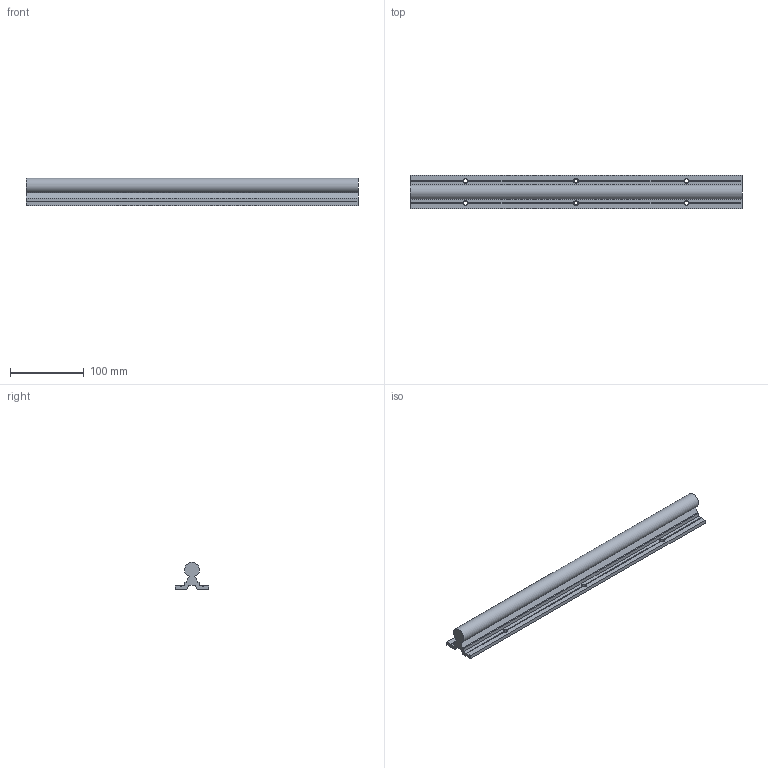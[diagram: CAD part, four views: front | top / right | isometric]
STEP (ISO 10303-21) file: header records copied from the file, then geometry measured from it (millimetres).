
FILE_DESCRIPTION(/* description */ (''),/* implementation_level */ '2;1');
FILE_NAME(/* name */ 'C:\Users\David\Desktop\stepFiles\Profilfuehrung\LFS20x450.stp',/* time_stamp */ '2018-06-24T15:21:52+02:00',/* author */ ('Buskamp'),/* organization */ (''),/* preprocessor_version */ 'ST-DEVELOPER v17',/* originating_system */ 'Autodesk Inventor 2019',/* authorisation */ '');
FILE_SCHEMA (('AUTOMOTIVE_DESIGN { 1 0 10303 214 3 1 1 }'));
Length unit declared in the file: millimetre
Products named in the file (1): Linearführung D20xvariabel
Bounding box: 450 x 45 x 37 mm (x, y, z)
Volume: 290742.6 mm3; surface area: 80733.3 mm2
Topology: 1 solids, 1 shells, 62 faces, 180 edges, 114 vertices
Faces by surface type: plane 43, cone 12, cylinder 7
Full cylindrical faces by diameter (mm): 5.5 x6
Entity records: 2075 total; most frequent: CARTESIAN_POINT 405, ORIENTED_EDGE 360, DIRECTION 338, EDGE_CURVE 180, AXIS2_PLACEMENT_3D 119, VERTEX_POINT 114, LINE 100, VECTOR 100
